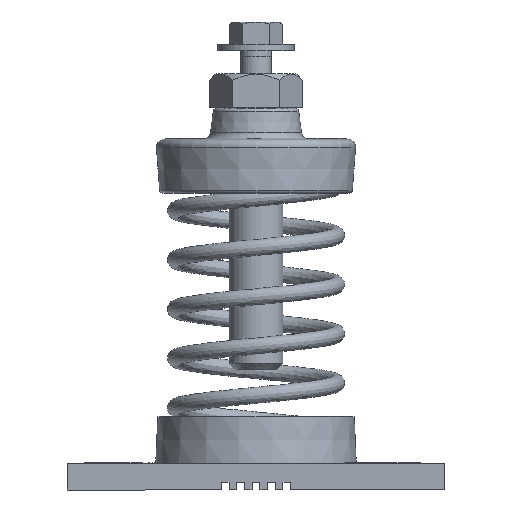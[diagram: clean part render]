
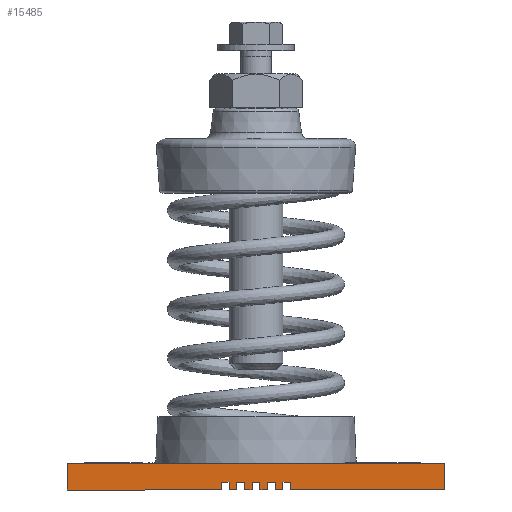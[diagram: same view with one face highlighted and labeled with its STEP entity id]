
A CAD part, front view. The second image highlights one B-rep face of the part: STEP entity #15485.
In plain terms, the highlighted planar face has unit normal (0, -1, 0).
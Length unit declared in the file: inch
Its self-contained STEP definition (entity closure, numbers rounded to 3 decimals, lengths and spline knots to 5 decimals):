
#1297=FACE_OUTER_BOUND($,#2364,.T.);
#2364=EDGE_LOOP($,(#12099,#12100,#12101,#12102,#12103,#12104,#12105,#12106,
#12107,#12108,#12109,#12110,#12111,#12112,#12113,#12114,#12115,#12116,#12117,
#12118,#12119,#12120,#12121,#12122));
#3116=LINE($,#21472,#4777);
#3709=LINE($,#24317,#5370);
#3710=LINE($,#24319,#5371);
#3711=LINE($,#24321,#5372);
#3712=LINE($,#24323,#5373);
#3713=LINE($,#24325,#5374);
#3714=LINE($,#24327,#5375);
#3715=LINE($,#24329,#5376);
#3716=LINE($,#24331,#5377);
#3717=LINE($,#24333,#5378);
#3718=LINE($,#24335,#5379);
#3719=LINE($,#24337,#5380);
#3720=LINE($,#24339,#5381);
#3721=LINE($,#24341,#5382);
#3722=LINE($,#24343,#5383);
#3723=LINE($,#24345,#5384);
#3724=LINE($,#24347,#5385);
#3725=LINE($,#24349,#5386);
#3726=LINE($,#24351,#5387);
#3727=LINE($,#24353,#5388);
#3728=LINE($,#24355,#5389);
#3729=LINE($,#24356,#5390);
#3730=LINE($,#24358,#5391);
#3731=LINE($,#24359,#5392);
#4777=VECTOR($,#17026,6.125);
#5370=VECTOR($,#18057,0.125);
#5371=VECTOR($,#18058,0.125);
#5372=VECTOR($,#18059,0.125);
#5373=VECTOR($,#18060,0.125);
#5374=VECTOR($,#18061,0.125);
#5375=VECTOR($,#18062,0.125);
#5376=VECTOR($,#18063,0.125);
#5377=VECTOR($,#18064,0.125);
#5378=VECTOR($,#18065,0.125);
#5379=VECTOR($,#18066,0.125);
#5380=VECTOR($,#18067,0.125);
#5381=VECTOR($,#18068,0.125);
#5382=VECTOR($,#18069,0.125);
#5383=VECTOR($,#18070,0.125);
#5384=VECTOR($,#18071,0.125);
#5385=VECTOR($,#18072,0.125);
#5386=VECTOR($,#18073,0.125);
#5387=VECTOR($,#18074,0.125);
#5388=VECTOR($,#18075,0.125);
#5389=VECTOR($,#18076,2.5);
#5390=VECTOR($,#18077,0.4375);
#5391=VECTOR($,#18078,0.4375);
#5392=VECTOR($,#18079,2.5);
#6450=VERTEX_POINT($,#21466);
#6452=VERTEX_POINT($,#21470);
#6956=VERTEX_POINT($,#24315);
#6957=VERTEX_POINT($,#24316);
#6958=VERTEX_POINT($,#24318);
#6959=VERTEX_POINT($,#24320);
#6960=VERTEX_POINT($,#24322);
#6961=VERTEX_POINT($,#24324);
#6962=VERTEX_POINT($,#24326);
#6963=VERTEX_POINT($,#24328);
#6964=VERTEX_POINT($,#24330);
#6965=VERTEX_POINT($,#24332);
#6966=VERTEX_POINT($,#24334);
#6967=VERTEX_POINT($,#24336);
#6968=VERTEX_POINT($,#24338);
#6969=VERTEX_POINT($,#24340);
#6970=VERTEX_POINT($,#24342);
#6971=VERTEX_POINT($,#24344);
#6972=VERTEX_POINT($,#24346);
#6973=VERTEX_POINT($,#24348);
#6974=VERTEX_POINT($,#24350);
#6975=VERTEX_POINT($,#24352);
#6976=VERTEX_POINT($,#24354);
#6977=VERTEX_POINT($,#24357);
#8057=EDGE_CURVE($,#6450,#6452,#3116,.T.);
#8809=EDGE_CURVE($,#6956,#6957,#3709,.T.);
#8810=EDGE_CURVE($,#6957,#6958,#3710,.T.);
#8811=EDGE_CURVE($,#6958,#6959,#3711,.T.);
#8812=EDGE_CURVE($,#6960,#6959,#3712,.T.);
#8813=EDGE_CURVE($,#6960,#6961,#3713,.T.);
#8814=EDGE_CURVE($,#6961,#6962,#3714,.T.);
#8815=EDGE_CURVE($,#6962,#6963,#3715,.T.);
#8816=EDGE_CURVE($,#6964,#6963,#3716,.T.);
#8817=EDGE_CURVE($,#6964,#6965,#3717,.T.);
#8818=EDGE_CURVE($,#6965,#6966,#3718,.T.);
#8819=EDGE_CURVE($,#6966,#6967,#3719,.T.);
#8820=EDGE_CURVE($,#6968,#6967,#3720,.T.);
#8821=EDGE_CURVE($,#6968,#6969,#3721,.T.);
#8822=EDGE_CURVE($,#6969,#6970,#3722,.T.);
#8823=EDGE_CURVE($,#6970,#6971,#3723,.T.);
#8824=EDGE_CURVE($,#6972,#6971,#3724,.T.);
#8825=EDGE_CURVE($,#6972,#6973,#3725,.T.);
#8826=EDGE_CURVE($,#6973,#6974,#3726,.T.);
#8827=EDGE_CURVE($,#6974,#6975,#3727,.T.);
#8828=EDGE_CURVE($,#6976,#6975,#3728,.T.);
#8829=EDGE_CURVE($,#6976,#6450,#3729,.T.);
#8830=EDGE_CURVE($,#6977,#6452,#3730,.T.);
#8831=EDGE_CURVE($,#6956,#6977,#3731,.T.);
#12099=ORIENTED_EDGE($,*,*,#8809,.T.);
#12100=ORIENTED_EDGE($,*,*,#8810,.T.);
#12101=ORIENTED_EDGE($,*,*,#8811,.T.);
#12102=ORIENTED_EDGE($,*,*,#8812,.F.);
#12103=ORIENTED_EDGE($,*,*,#8813,.T.);
#12104=ORIENTED_EDGE($,*,*,#8814,.T.);
#12105=ORIENTED_EDGE($,*,*,#8815,.T.);
#12106=ORIENTED_EDGE($,*,*,#8816,.F.);
#12107=ORIENTED_EDGE($,*,*,#8817,.T.);
#12108=ORIENTED_EDGE($,*,*,#8818,.T.);
#12109=ORIENTED_EDGE($,*,*,#8819,.T.);
#12110=ORIENTED_EDGE($,*,*,#8820,.F.);
#12111=ORIENTED_EDGE($,*,*,#8821,.T.);
#12112=ORIENTED_EDGE($,*,*,#8822,.T.);
#12113=ORIENTED_EDGE($,*,*,#8823,.T.);
#12114=ORIENTED_EDGE($,*,*,#8824,.F.);
#12115=ORIENTED_EDGE($,*,*,#8825,.T.);
#12116=ORIENTED_EDGE($,*,*,#8826,.T.);
#12117=ORIENTED_EDGE($,*,*,#8827,.T.);
#12118=ORIENTED_EDGE($,*,*,#8828,.F.);
#12119=ORIENTED_EDGE($,*,*,#8829,.T.);
#12120=ORIENTED_EDGE($,*,*,#8057,.T.);
#12121=ORIENTED_EDGE($,*,*,#8830,.F.);
#12122=ORIENTED_EDGE($,*,*,#8831,.F.);
#14705=PLANE($,#16234);
#15485=ADVANCED_FACE($,(#1297),#14705,.T.);
#16234=AXIS2_PLACEMENT_3D($,#24314,#18055,#18056);
#17026=DIRECTION($,(-1.,0.,0.));
#18055=DIRECTION('center_axis',(0.,-1.,0.));
#18056=DIRECTION('ref_axis',(0.,0.,-1.));
#18057=DIRECTION($,(0.,0.,1.));
#18058=DIRECTION($,(1.,0.,0.));
#18059=DIRECTION($,(0.,0.,-1.));
#18060=DIRECTION($,(-1.,0.,0.));
#18061=DIRECTION($,(0.,0.,1.));
#18062=DIRECTION($,(1.,0.,0.));
#18063=DIRECTION($,(0.,0.,-1.));
#18064=DIRECTION($,(-1.,0.,0.));
#18065=DIRECTION($,(0.,0.,1.));
#18066=DIRECTION($,(1.,0.,0.));
#18067=DIRECTION($,(0.,0.,-1.));
#18068=DIRECTION($,(-1.,0.,0.));
#18069=DIRECTION($,(0.,0.,1.));
#18070=DIRECTION($,(1.,0.,0.));
#18071=DIRECTION($,(0.,0.,-1.));
#18072=DIRECTION($,(-1.,0.,0.));
#18073=DIRECTION($,(0.,0.,1.));
#18074=DIRECTION($,(1.,0.,0.));
#18075=DIRECTION($,(0.,0.,-1.));
#18076=DIRECTION($,(-1.,0.,0.));
#18077=DIRECTION($,(0.,0.,1.));
#18078=DIRECTION($,(0.,0.,1.));
#18079=DIRECTION($,(-1.,0.,0.));
#21466=CARTESIAN_POINT('',(3.0625,-1.6875,0.4375));
#21470=CARTESIAN_POINT('',(-3.0625,-1.6875,0.4375));
#21472=CARTESIAN_POINT($,(3.0625,-1.6875,0.4375));
#24314=CARTESIAN_POINT('Origin',(3.0625,-1.6875,0.));
#24315=CARTESIAN_POINT('',(-0.5625,-1.6875,0.));
#24316=CARTESIAN_POINT('',(-0.5625,-1.6875,0.125));
#24317=CARTESIAN_POINT($,(-0.5625,-1.6875,0.));
#24318=CARTESIAN_POINT('',(-0.4375,-1.6875,0.125));
#24319=CARTESIAN_POINT($,(1.28125,-1.6875,0.125));
#24320=CARTESIAN_POINT('',(-0.4375,-1.6875,0.));
#24321=CARTESIAN_POINT($,(-0.4375,-1.6875,0.));
#24322=CARTESIAN_POINT('',(-0.3125,-1.6875,0.));
#24323=CARTESIAN_POINT($,(3.0625,-1.6875,0.));
#24324=CARTESIAN_POINT('',(-0.3125,-1.6875,0.125));
#24325=CARTESIAN_POINT($,(-0.3125,-1.6875,0.));
#24326=CARTESIAN_POINT('',(-0.1875,-1.6875,0.125));
#24327=CARTESIAN_POINT($,(1.40625,-1.6875,0.125));
#24328=CARTESIAN_POINT('',(-0.1875,-1.6875,0.));
#24329=CARTESIAN_POINT($,(-0.1875,-1.6875,0.));
#24330=CARTESIAN_POINT('',(-0.0625,-1.6875,0.));
#24331=CARTESIAN_POINT($,(3.0625,-1.6875,0.));
#24332=CARTESIAN_POINT('',(-0.0625,-1.6875,0.125));
#24333=CARTESIAN_POINT($,(-0.0625,-1.6875,0.));
#24334=CARTESIAN_POINT('',(0.0625,-1.6875,0.125));
#24335=CARTESIAN_POINT($,(1.53125,-1.6875,0.125));
#24336=CARTESIAN_POINT('',(0.0625,-1.6875,0.));
#24337=CARTESIAN_POINT($,(0.0625,-1.6875,0.));
#24338=CARTESIAN_POINT('',(0.1875,-1.6875,0.));
#24339=CARTESIAN_POINT($,(3.0625,-1.6875,0.));
#24340=CARTESIAN_POINT('',(0.1875,-1.6875,0.125));
#24341=CARTESIAN_POINT($,(0.1875,-1.6875,0.));
#24342=CARTESIAN_POINT('',(0.3125,-1.6875,0.125));
#24343=CARTESIAN_POINT($,(1.65625,-1.6875,0.125));
#24344=CARTESIAN_POINT('',(0.3125,-1.6875,0.));
#24345=CARTESIAN_POINT($,(0.3125,-1.6875,0.));
#24346=CARTESIAN_POINT('',(0.4375,-1.6875,0.));
#24347=CARTESIAN_POINT($,(3.0625,-1.6875,0.));
#24348=CARTESIAN_POINT('',(0.4375,-1.6875,0.125));
#24349=CARTESIAN_POINT($,(0.4375,-1.6875,0.));
#24350=CARTESIAN_POINT('',(0.5625,-1.6875,0.125));
#24351=CARTESIAN_POINT($,(1.78125,-1.6875,0.125));
#24352=CARTESIAN_POINT('',(0.5625,-1.6875,0.));
#24353=CARTESIAN_POINT($,(0.5625,-1.6875,0.));
#24354=CARTESIAN_POINT('',(3.0625,-1.6875,0.));
#24355=CARTESIAN_POINT($,(3.0625,-1.6875,0.));
#24356=CARTESIAN_POINT($,(3.0625,-1.6875,0.));
#24357=CARTESIAN_POINT('',(-3.0625,-1.6875,0.));
#24358=CARTESIAN_POINT($,(-3.0625,-1.6875,0.));
#24359=CARTESIAN_POINT($,(3.0625,-1.6875,0.));
